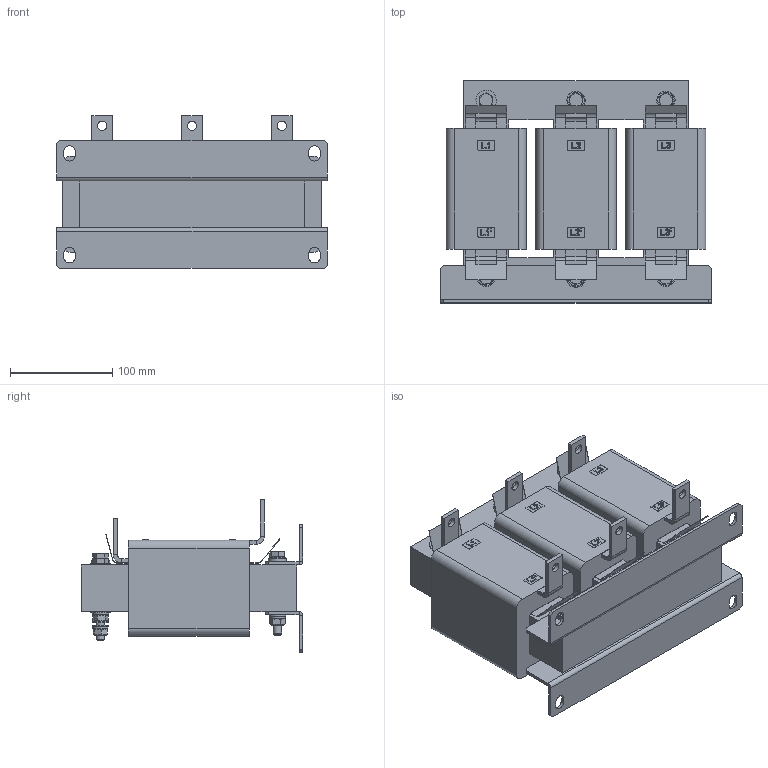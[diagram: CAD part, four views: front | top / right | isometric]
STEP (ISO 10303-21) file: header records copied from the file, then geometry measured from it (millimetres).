
FILE_DESCRIPTION(/* description */ ('raw material description'),/* implementation_level */ '2;1');
FILE_NAME(/* name */ 'P:\Construction\Filter_Marketing\RWK\RWK3044_RWK3062\RWK3044\RWK3044-140-99-E0XXX.stp',/* time_stamp */ '2018-08-27T10:29:43+02:00',/* author */ ('Erika.Jenzer'),/* organization */ ('Schaffner EMV AG'),/* preprocessor_version */ 'ST-DEVELOPER v16.5',/* originating_system */ 'Autodesk Inventor 2017',/* authorisation */ '');
FILE_SCHEMA (('AUTOMOTIVE_DESIGN { 1 0 10303 214 3 1 1 }'));
Length unit declared in the file: millimetre
Products named in the file (1): RWK3044-140-99-E0XXX
Bounding box: 265 x 217.4 x 149.8 mm (x, y, z)
Volume: 3645586.9 mm3; surface area: 329884.9 mm2
Topology: 39 solids, 52 shells, 1064 faces, 2579 edges, 1702 vertices
Faces by surface type: plane 730, cylinder 168, cone 109, bspline 50, torus 7
Full cylindrical faces by diameter (mm): 8 x19, 8.2 x6, 8.4 x14, 9 x6, 9.9 x5, 10.5 x3, 11 x4, 11.6 x5, 13 x1, 16 x12, 18 x5, 20 x2
Entity records: 31010 total; most frequent: CARTESIAN_POINT 6171, ORIENTED_EDGE 4860, DIRECTION 4590, EDGE_CURVE 2423, LINE 1698, VECTOR 1698, VERTEX_POINT 1665, AXIS2_PLACEMENT_3D 1446
